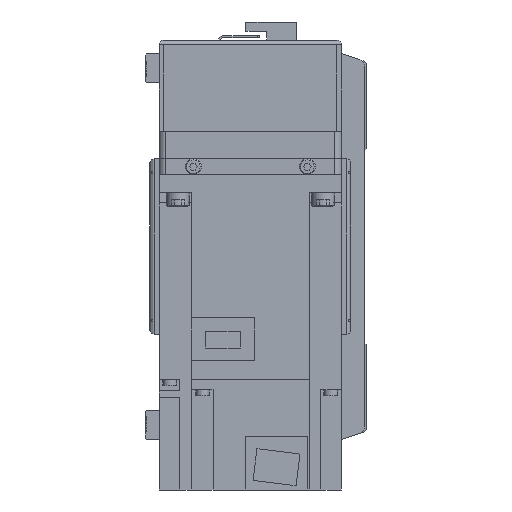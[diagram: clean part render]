
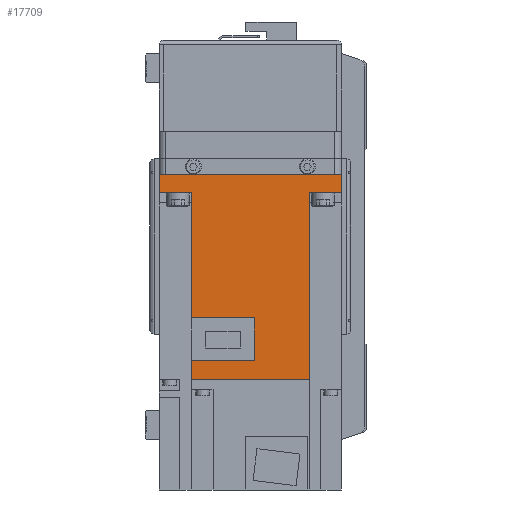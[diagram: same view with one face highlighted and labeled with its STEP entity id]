
A CAD part, left-side view. The second image highlights one B-rep face of the part: STEP entity #17709.
In plain terms, the highlighted planar face has unit normal (-1, 0, 0) as drawn and (1, 0, 0) by its records, which use the part's own axes.
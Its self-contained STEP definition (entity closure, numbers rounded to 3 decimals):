
#1957=ORIENTED_EDGE('',*,*,#6825,.F.);
#1958=ORIENTED_EDGE('',*,*,#6826,.F.);
#1959=ORIENTED_EDGE('',*,*,#6827,.F.);
#1960=ORIENTED_EDGE('',*,*,#6828,.T.);
#1961=ORIENTED_EDGE('',*,*,#6829,.F.);
#1962=ORIENTED_EDGE('',*,*,#6830,.T.);
#1963=ORIENTED_EDGE('',*,*,#6831,.T.);
#1964=ORIENTED_EDGE('',*,*,#6832,.F.);
#1965=ORIENTED_EDGE('',*,*,#6833,.F.);
#1966=ORIENTED_EDGE('',*,*,#6834,.F.);
#1967=ORIENTED_EDGE('',*,*,#6835,.F.);
#1968=ORIENTED_EDGE('',*,*,#6836,.F.);
#6825=EDGE_CURVE('',#9319,#9320,#11077,.T.);
#6826=EDGE_CURVE('',#9321,#9319,#11078,.T.);
#6827=EDGE_CURVE('',#9322,#9321,#11079,.T.);
#6828=EDGE_CURVE('',#9322,#9323,#11080,.T.);
#6829=EDGE_CURVE('',#9324,#9323,#11081,.T.);
#6830=EDGE_CURVE('',#9324,#9325,#11082,.T.);
#6831=EDGE_CURVE('',#9325,#9326,#11083,.T.);
#6832=EDGE_CURVE('',#9327,#9326,#11084,.T.);
#6833=EDGE_CURVE('',#9328,#9327,#11085,.T.);
#6834=EDGE_CURVE('',#9329,#9328,#11086,.T.);
#6835=EDGE_CURVE('',#9330,#9329,#11087,.T.);
#6836=EDGE_CURVE('',#9320,#9330,#11088,.T.);
#9319=VERTEX_POINT('',#26674);
#9320=VERTEX_POINT('',#26675);
#9321=VERTEX_POINT('',#26677);
#9322=VERTEX_POINT('',#26679);
#9323=VERTEX_POINT('',#26681);
#9324=VERTEX_POINT('',#26683);
#9325=VERTEX_POINT('',#26685);
#9326=VERTEX_POINT('',#26687);
#9327=VERTEX_POINT('',#26689);
#9328=VERTEX_POINT('',#26691);
#9329=VERTEX_POINT('',#26693);
#9330=VERTEX_POINT('',#26695);
#11077=LINE('',#26673,#12723);
#11078=LINE('',#26676,#12724);
#11079=LINE('',#26678,#12725);
#11080=LINE('',#26680,#12726);
#11081=LINE('',#26682,#12727);
#11082=LINE('',#26684,#12728);
#11083=LINE('',#26686,#12729);
#11084=LINE('',#26688,#12730);
#11085=LINE('',#26690,#12731);
#11086=LINE('',#26692,#12732);
#11087=LINE('',#26694,#12733);
#11088=LINE('',#26696,#12734);
#12723=VECTOR('',#21261,1000.);
#12724=VECTOR('',#21262,1000.);
#12725=VECTOR('',#21263,1000.);
#12726=VECTOR('',#21264,1000.);
#12727=VECTOR('',#21265,1000.);
#12728=VECTOR('',#21266,1000.);
#12729=VECTOR('',#21267,1000.);
#12730=VECTOR('',#21268,1000.);
#12731=VECTOR('',#21269,1000.);
#12732=VECTOR('',#21270,1000.);
#12733=VECTOR('',#21271,1000.);
#12734=VECTOR('',#21272,1000.);
#14361=EDGE_LOOP('',(#1957,#1958,#1959,#1960,#1961,#1962,#1963,#1964,#1965,
#1966,#1967,#1968));
#15733=FACE_BOUND('',#14361,.T.);
#16998=PLANE('',#18939);
#17709=ADVANCED_FACE('',(#15733),#16998,.F.);
#18939=AXIS2_PLACEMENT_3D('',#26672,#21259,#21260);
#21259=DIRECTION('',(-1.,0.,0.));
#21260=DIRECTION('',(0.,0.,1.));
#21261=DIRECTION('',(0.,0.,1.));
#21262=DIRECTION('',(0.,-1.,0.));
#21263=DIRECTION('',(0.,0.,-1.));
#21264=DIRECTION('',(0.,-1.,0.));
#21265=DIRECTION('',(0.,0.,-1.));
#21266=DIRECTION('',(0.,-1.,0.));
#21267=DIRECTION('',(0.,0.,-1.));
#21268=DIRECTION('',(0.,-1.,0.));
#21269=DIRECTION('',(0.,0.,-1.));
#21270=DIRECTION('',(0.,-1.,0.));
#21271=DIRECTION('',(0.,0.,-1.));
#21272=DIRECTION('',(0.,-1.,0.));
#26672=CARTESIAN_POINT('',(40.,89.8,40.));
#26673=CARTESIAN_POINT('',(40.,81.4,-26.));
#26674=CARTESIAN_POINT('',(40.,81.4,-25.95));
#26675=CARTESIAN_POINT('',(40.,81.4,1.8));
#26676=CARTESIAN_POINT('',(40.,158.,-25.95));
#26677=CARTESIAN_POINT('',(40.,89.8,-25.95));
#26678=CARTESIAN_POINT('',(40.,89.8,40.));
#26679=CARTESIAN_POINT('',(40.,89.8,25.95));
#26680=CARTESIAN_POINT('',(40.,158.,25.95));
#26681=CARTESIAN_POINT('',(40.,8.,25.95));
#26682=CARTESIAN_POINT('',(40.,8.,40.));
#26683=CARTESIAN_POINT('',(40.,8.,40.));
#26684=CARTESIAN_POINT('',(40.,89.8,40.));
#26685=CARTESIAN_POINT('',(40.,0.,40.));
#26686=CARTESIAN_POINT('',(40.,0.,40.));
#26687=CARTESIAN_POINT('',(40.,0.,-40.));
#26688=CARTESIAN_POINT('',(40.,89.8,-40.));
#26689=CARTESIAN_POINT('',(40.,8.,-40.));
#26690=CARTESIAN_POINT('',(40.,8.,40.));
#26691=CARTESIAN_POINT('',(40.,8.,-25.95));
#26692=CARTESIAN_POINT('',(40.,158.,-25.95));
#26693=CARTESIAN_POINT('',(40.,62.8,-25.95));
#26694=CARTESIAN_POINT('',(40.,62.8,1.8));
#26695=CARTESIAN_POINT('',(40.,62.8,1.8));
#26696=CARTESIAN_POINT('',(40.,81.4,1.8));
